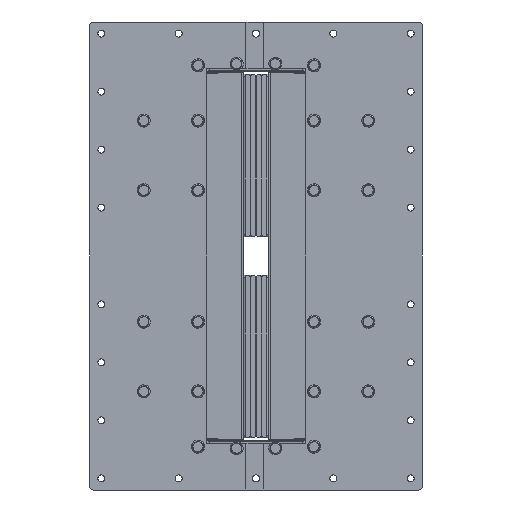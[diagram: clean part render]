
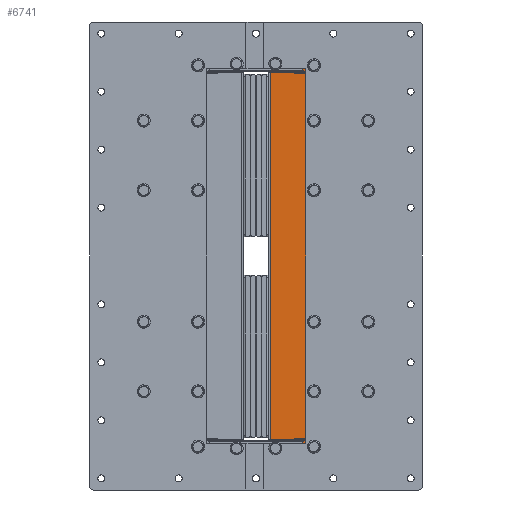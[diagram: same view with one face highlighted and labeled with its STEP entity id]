
A CAD part, left-side view. The second image highlights one B-rep face of the part: STEP entity #6741.
In plain terms, the highlighted planar face has unit normal (-1, 0, 0).
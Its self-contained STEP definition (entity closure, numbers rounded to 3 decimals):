
#5956=AXIS2_PLACEMENT_3D('Plane Axis2P3D',#5953,#5954,#5955) ;
#6090=AXIS2_PLACEMENT_3D('Circle Axis2P3D',#6088,#6089,$) ;
#6152=AXIS2_PLACEMENT_3D('Circle Axis2P3D',#6150,#6151,$) ;
#6421=AXIS2_PLACEMENT_3D('Circle Axis2P3D',#6419,#6420,$) ;
#6469=AXIS2_PLACEMENT_3D('Circle Axis2P3D',#6467,#6468,$) ;
#6635=AXIS2_PLACEMENT_3D('Circle Axis2P3D',#6633,#6634,$) ;
#6644=AXIS2_PLACEMENT_3D('Circle Axis2P3D',#6642,#6643,$) ;
#6653=AXIS2_PLACEMENT_3D('Circle Axis2P3D',#6651,#6652,$) ;
#6662=AXIS2_PLACEMENT_3D('Circle Axis2P3D',#6660,#6661,$) ;
#6671=AXIS2_PLACEMENT_3D('Circle Axis2P3D',#6669,#6670,$) ;
#6680=AXIS2_PLACEMENT_3D('Circle Axis2P3D',#6678,#6679,$) ;
#6689=AXIS2_PLACEMENT_3D('Circle Axis2P3D',#6687,#6688,$) ;
#6698=AXIS2_PLACEMENT_3D('Circle Axis2P3D',#6696,#6697,$) ;
#6707=AXIS2_PLACEMENT_3D('Circle Axis2P3D',#6705,#6706,$) ;
#6716=AXIS2_PLACEMENT_3D('Circle Axis2P3D',#6714,#6715,$) ;
#6725=AXIS2_PLACEMENT_3D('Circle Axis2P3D',#6723,#6724,$) ;
#6734=AXIS2_PLACEMENT_3D('Circle Axis2P3D',#6732,#6733,$) ;
#5953=CARTESIAN_POINT('Axis2P3D Location',(0.,0.,0.)) ;
#5994=CARTESIAN_POINT('Vertex',(0.,-60.,238.5)) ;
#5999=CARTESIAN_POINT('Line Origine',(0.,-60.,249.25)) ;
#6003=CARTESIAN_POINT('Vertex',(0.,-60.,260.)) ;
#6057=CARTESIAN_POINT('Line Origine',(0.,-69.,260.)) ;
#6061=CARTESIAN_POINT('Vertex',(0.,-78.,260.)) ;
#6088=CARTESIAN_POINT('Axis2P3D Location',(0.,-78.,255.)) ;
#6092=CARTESIAN_POINT('Vertex',(0.,-83.,255.)) ;
#6119=CARTESIAN_POINT('Line Origine',(0.,-83.,0.)) ;
#6123=CARTESIAN_POINT('Vertex',(0.,-83.,-255.)) ;
#6150=CARTESIAN_POINT('Axis2P3D Location',(0.,-78.,-255.)) ;
#6154=CARTESIAN_POINT('Vertex',(0.,-78.,-260.)) ;
#6181=CARTESIAN_POINT('Line Origine',(0.,-69.,-260.)) ;
#6185=CARTESIAN_POINT('Vertex',(0.,-60.,-260.)) ;
#6207=CARTESIAN_POINT('Line Origine',(0.,-60.,-249.25)) ;
#6211=CARTESIAN_POINT('Vertex',(0.,-60.,-238.5)) ;
#6246=CARTESIAN_POINT('Vertex',(0.,-60.,237.)) ;
#6249=CARTESIAN_POINT('Line Origine',(0.,-60.,237.75)) ;
#6282=CARTESIAN_POINT('Vertex',(0.,-18.62,237.)) ;
#6285=CARTESIAN_POINT('Line Origine',(0.,-39.31,237.)) ;
#6416=CARTESIAN_POINT('Vertex',(0.,-18.12,236.5)) ;
#6419=CARTESIAN_POINT('Axis2P3D Location',(0.,-18.62,236.5)) ;
#6440=CARTESIAN_POINT('Vertex',(0.,-18.12,-236.5)) ;
#6443=CARTESIAN_POINT('Line Origine',(0.,-18.12,0.)) ;
#6464=CARTESIAN_POINT('Vertex',(0.,-18.62,-237.)) ;
#6467=CARTESIAN_POINT('Axis2P3D Location',(0.,-18.62,-236.5)) ;
#6488=CARTESIAN_POINT('Vertex',(0.,-60.,-237.)) ;
#6491=CARTESIAN_POINT('Line Origine',(0.,-39.31,-237.)) ;
#6508=CARTESIAN_POINT('Line Origine',(0.,-60.,-237.75)) ;
#6633=CARTESIAN_POINT('Axis2P3D Location',(0.,-75.,175.)) ;
#6637=CARTESIAN_POINT('Vertex',(0.,-79.5,175.)) ;
#6639=CARTESIAN_POINT('Vertex',(0.,-70.5,175.)) ;
#6642=CARTESIAN_POINT('Axis2P3D Location',(0.,-75.,175.)) ;
#6651=CARTESIAN_POINT('Axis2P3D Location',(0.,-75.,85.)) ;
#6655=CARTESIAN_POINT('Vertex',(0.,-79.5,85.)) ;
#6657=CARTESIAN_POINT('Vertex',(0.,-70.5,85.)) ;
#6660=CARTESIAN_POINT('Axis2P3D Location',(0.,-75.,85.)) ;
#6669=CARTESIAN_POINT('Axis2P3D Location',(0.,-75.,-85.)) ;
#6673=CARTESIAN_POINT('Vertex',(0.,-79.5,-85.)) ;
#6675=CARTESIAN_POINT('Vertex',(0.,-70.5,-85.)) ;
#6678=CARTESIAN_POINT('Axis2P3D Location',(0.,-75.,-85.)) ;
#6687=CARTESIAN_POINT('Axis2P3D Location',(0.,-75.,-175.)) ;
#6691=CARTESIAN_POINT('Vertex',(0.,-79.5,-175.)) ;
#6693=CARTESIAN_POINT('Vertex',(0.,-70.5,-175.)) ;
#6696=CARTESIAN_POINT('Axis2P3D Location',(0.,-75.,-175.)) ;
#6705=CARTESIAN_POINT('Axis2P3D Location',(0.,-75.,246.5)) ;
#6709=CARTESIAN_POINT('Vertex',(0.,-79.5,246.5)) ;
#6711=CARTESIAN_POINT('Vertex',(0.,-70.5,246.5)) ;
#6714=CARTESIAN_POINT('Axis2P3D Location',(0.,-75.,246.5)) ;
#6723=CARTESIAN_POINT('Axis2P3D Location',(0.,-75.,-246.5)) ;
#6727=CARTESIAN_POINT('Vertex',(0.,-79.5,-246.5)) ;
#6729=CARTESIAN_POINT('Vertex',(0.,-70.5,-246.5)) ;
#6732=CARTESIAN_POINT('Axis2P3D Location',(0.,-75.,-246.5)) ;
#5954=DIRECTION('Axis2P3D Direction',(1.,0.,0.)) ;
#5955=DIRECTION('Axis2P3D XDirection',(0.,1.,0.)) ;
#6000=DIRECTION('Vector Direction',(0.,0.,-1.)) ;
#6058=DIRECTION('Vector Direction',(0.,-1.,0.)) ;
#6089=DIRECTION('Axis2P3D Direction',(1.,0.,0.)) ;
#6120=DIRECTION('Vector Direction',(0.,0.,1.)) ;
#6151=DIRECTION('Axis2P3D Direction',(1.,0.,0.)) ;
#6182=DIRECTION('Vector Direction',(0.,1.,0.)) ;
#6208=DIRECTION('Vector Direction',(0.,0.,-1.)) ;
#6250=DIRECTION('Vector Direction',(0.,0.,-1.)) ;
#6286=DIRECTION('Vector Direction',(0.,1.,0.)) ;
#6420=DIRECTION('Axis2P3D Direction',(1.,0.,0.)) ;
#6444=DIRECTION('Vector Direction',(0.,0.,1.)) ;
#6468=DIRECTION('Axis2P3D Direction',(1.,0.,0.)) ;
#6492=DIRECTION('Vector Direction',(0.,-1.,0.)) ;
#6509=DIRECTION('Vector Direction',(0.,0.,-1.)) ;
#6634=DIRECTION('Axis2P3D Direction',(1.,0.,0.)) ;
#6643=DIRECTION('Axis2P3D Direction',(1.,0.,0.)) ;
#6652=DIRECTION('Axis2P3D Direction',(1.,0.,0.)) ;
#6661=DIRECTION('Axis2P3D Direction',(1.,0.,0.)) ;
#6670=DIRECTION('Axis2P3D Direction',(1.,0.,0.)) ;
#6679=DIRECTION('Axis2P3D Direction',(1.,0.,0.)) ;
#6688=DIRECTION('Axis2P3D Direction',(1.,0.,0.)) ;
#6697=DIRECTION('Axis2P3D Direction',(1.,0.,0.)) ;
#6706=DIRECTION('Axis2P3D Direction',(1.,0.,0.)) ;
#6715=DIRECTION('Axis2P3D Direction',(1.,0.,0.)) ;
#6724=DIRECTION('Axis2P3D Direction',(1.,0.,0.)) ;
#6733=DIRECTION('Axis2P3D Direction',(1.,0.,0.)) ;
#6001=VECTOR('Line Direction',#6000,1.) ;
#6059=VECTOR('Line Direction',#6058,1.) ;
#6121=VECTOR('Line Direction',#6120,1.) ;
#6183=VECTOR('Line Direction',#6182,1.) ;
#6209=VECTOR('Line Direction',#6208,1.) ;
#6251=VECTOR('Line Direction',#6250,1.) ;
#6287=VECTOR('Line Direction',#6286,1.) ;
#6445=VECTOR('Line Direction',#6444,1.) ;
#6493=VECTOR('Line Direction',#6492,1.) ;
#6510=VECTOR('Line Direction',#6509,1.) ;
#6618=ORIENTED_EDGE('',*,*,#6253,.T.) ;
#6619=ORIENTED_EDGE('',*,*,#6289,.T.) ;
#6620=ORIENTED_EDGE('',*,*,#6423,.T.) ;
#6621=ORIENTED_EDGE('',*,*,#6447,.T.) ;
#6622=ORIENTED_EDGE('',*,*,#6471,.T.) ;
#6623=ORIENTED_EDGE('',*,*,#6495,.T.) ;
#6624=ORIENTED_EDGE('',*,*,#6512,.T.) ;
#6625=ORIENTED_EDGE('',*,*,#6213,.F.) ;
#6626=ORIENTED_EDGE('',*,*,#6187,.F.) ;
#6627=ORIENTED_EDGE('',*,*,#6156,.F.) ;
#6628=ORIENTED_EDGE('',*,*,#6125,.F.) ;
#6629=ORIENTED_EDGE('',*,*,#6094,.F.) ;
#6630=ORIENTED_EDGE('',*,*,#6063,.F.) ;
#6631=ORIENTED_EDGE('',*,*,#6005,.F.) ;
#6648=ORIENTED_EDGE('',*,*,#6641,.T.) ;
#6649=ORIENTED_EDGE('',*,*,#6646,.T.) ;
#6666=ORIENTED_EDGE('',*,*,#6659,.T.) ;
#6667=ORIENTED_EDGE('',*,*,#6664,.T.) ;
#6684=ORIENTED_EDGE('',*,*,#6677,.T.) ;
#6685=ORIENTED_EDGE('',*,*,#6682,.T.) ;
#6702=ORIENTED_EDGE('',*,*,#6695,.T.) ;
#6703=ORIENTED_EDGE('',*,*,#6700,.T.) ;
#6720=ORIENTED_EDGE('',*,*,#6713,.T.) ;
#6721=ORIENTED_EDGE('',*,*,#6718,.T.) ;
#6738=ORIENTED_EDGE('',*,*,#6731,.T.) ;
#6739=ORIENTED_EDGE('',*,*,#6736,.T.) ;
#6650=FACE_BOUND('',#6647,.T.) ;
#6668=FACE_BOUND('',#6665,.T.) ;
#6686=FACE_BOUND('',#6683,.T.) ;
#6704=FACE_BOUND('',#6701,.T.) ;
#6722=FACE_BOUND('',#6719,.T.) ;
#6740=FACE_BOUND('',#6737,.T.) ;
#6741=ADVANCED_FACE('Laterale(L3)',(#6632,#6650,#6668,#6686,#6704,#6722,#6740),#5957,.F.) ;
#6091=CIRCLE('generated circle',#6090,5.) ;
#6153=CIRCLE('generated circle',#6152,5.) ;
#6422=CIRCLE('generated circle',#6421,0.5) ;
#6470=CIRCLE('generated circle',#6469,0.5) ;
#6636=CIRCLE('generated circle',#6635,4.5) ;
#6645=CIRCLE('generated circle',#6644,4.5) ;
#6654=CIRCLE('generated circle',#6653,4.5) ;
#6663=CIRCLE('generated circle',#6662,4.5) ;
#6672=CIRCLE('generated circle',#6671,4.5) ;
#6681=CIRCLE('generated circle',#6680,4.5) ;
#6690=CIRCLE('generated circle',#6689,4.5) ;
#6699=CIRCLE('generated circle',#6698,4.5) ;
#6708=CIRCLE('generated circle',#6707,4.5) ;
#6717=CIRCLE('generated circle',#6716,4.5) ;
#6726=CIRCLE('generated circle',#6725,4.5) ;
#6735=CIRCLE('generated circle',#6734,4.5) ;
#6005=EDGE_CURVE('',#5995,#6004,#6002,.F.) ;
#6063=EDGE_CURVE('',#6004,#6062,#6060,.T.) ;
#6094=EDGE_CURVE('',#6062,#6093,#6091,.T.) ;
#6125=EDGE_CURVE('',#6093,#6124,#6122,.F.) ;
#6156=EDGE_CURVE('',#6124,#6155,#6153,.T.) ;
#6187=EDGE_CURVE('',#6155,#6186,#6184,.T.) ;
#6213=EDGE_CURVE('',#6186,#6212,#6210,.F.) ;
#6253=EDGE_CURVE('',#5995,#6247,#6252,.T.) ;
#6289=EDGE_CURVE('',#6247,#6283,#6288,.T.) ;
#6423=EDGE_CURVE('',#6283,#6417,#6422,.F.) ;
#6447=EDGE_CURVE('',#6417,#6441,#6446,.F.) ;
#6471=EDGE_CURVE('',#6441,#6465,#6470,.F.) ;
#6495=EDGE_CURVE('',#6465,#6489,#6494,.T.) ;
#6512=EDGE_CURVE('',#6489,#6212,#6511,.T.) ;
#6641=EDGE_CURVE('',#6638,#6640,#6636,.T.) ;
#6646=EDGE_CURVE('',#6640,#6638,#6645,.T.) ;
#6659=EDGE_CURVE('',#6656,#6658,#6654,.T.) ;
#6664=EDGE_CURVE('',#6658,#6656,#6663,.T.) ;
#6677=EDGE_CURVE('',#6674,#6676,#6672,.T.) ;
#6682=EDGE_CURVE('',#6676,#6674,#6681,.T.) ;
#6695=EDGE_CURVE('',#6692,#6694,#6690,.T.) ;
#6700=EDGE_CURVE('',#6694,#6692,#6699,.T.) ;
#6713=EDGE_CURVE('',#6710,#6712,#6708,.T.) ;
#6718=EDGE_CURVE('',#6712,#6710,#6717,.T.) ;
#6731=EDGE_CURVE('',#6728,#6730,#6726,.T.) ;
#6736=EDGE_CURVE('',#6730,#6728,#6735,.T.) ;
#6617=EDGE_LOOP('',(#6618,#6619,#6620,#6621,#6622,#6623,#6624,#6625,#6626,#6627,#6628,#6629,#6630,#6631)) ;
#6647=EDGE_LOOP('',(#6648,#6649)) ;
#6665=EDGE_LOOP('',(#6666,#6667)) ;
#6683=EDGE_LOOP('',(#6684,#6685)) ;
#6701=EDGE_LOOP('',(#6702,#6703)) ;
#6719=EDGE_LOOP('',(#6720,#6721)) ;
#6737=EDGE_LOOP('',(#6738,#6739)) ;
#6632=FACE_OUTER_BOUND('',#6617,.T.) ;
#6002=LINE('Line',#5999,#6001) ;
#6060=LINE('Line',#6057,#6059) ;
#6122=LINE('Line',#6119,#6121) ;
#6184=LINE('Line',#6181,#6183) ;
#6210=LINE('Line',#6207,#6209) ;
#6252=LINE('Line',#6249,#6251) ;
#6288=LINE('Line',#6285,#6287) ;
#6446=LINE('Line',#6443,#6445) ;
#6494=LINE('Line',#6491,#6493) ;
#6511=LINE('Line',#6508,#6510) ;
#5957=PLANE('',#5956) ;
#5995=VERTEX_POINT('',#5994) ;
#6004=VERTEX_POINT('',#6003) ;
#6062=VERTEX_POINT('',#6061) ;
#6093=VERTEX_POINT('',#6092) ;
#6124=VERTEX_POINT('',#6123) ;
#6155=VERTEX_POINT('',#6154) ;
#6186=VERTEX_POINT('',#6185) ;
#6212=VERTEX_POINT('',#6211) ;
#6247=VERTEX_POINT('',#6246) ;
#6283=VERTEX_POINT('',#6282) ;
#6417=VERTEX_POINT('',#6416) ;
#6441=VERTEX_POINT('',#6440) ;
#6465=VERTEX_POINT('',#6464) ;
#6489=VERTEX_POINT('',#6488) ;
#6638=VERTEX_POINT('',#6637) ;
#6640=VERTEX_POINT('',#6639) ;
#6656=VERTEX_POINT('',#6655) ;
#6658=VERTEX_POINT('',#6657) ;
#6674=VERTEX_POINT('',#6673) ;
#6676=VERTEX_POINT('',#6675) ;
#6692=VERTEX_POINT('',#6691) ;
#6694=VERTEX_POINT('',#6693) ;
#6710=VERTEX_POINT('',#6709) ;
#6712=VERTEX_POINT('',#6711) ;
#6728=VERTEX_POINT('',#6727) ;
#6730=VERTEX_POINT('',#6729) ;
